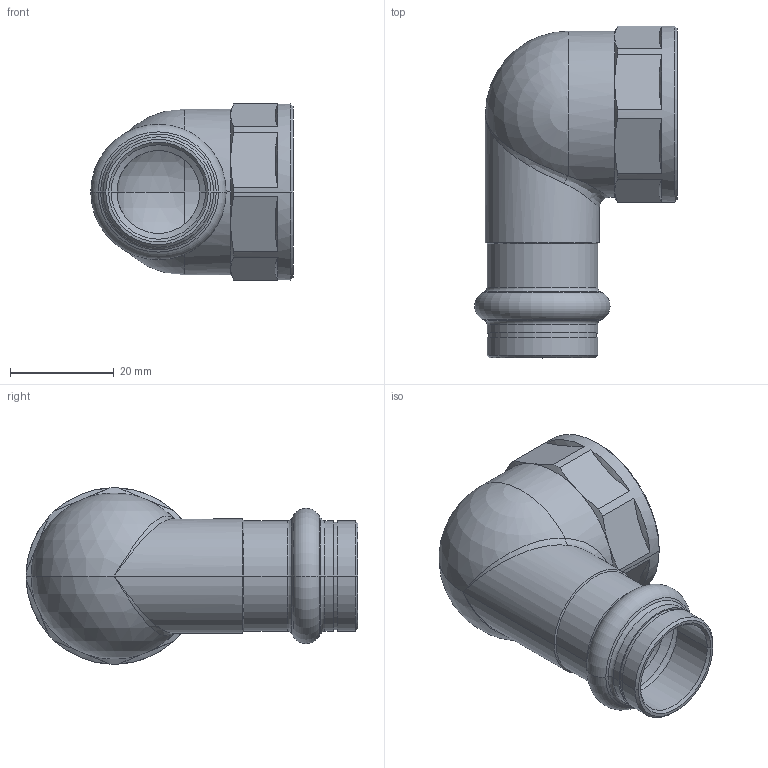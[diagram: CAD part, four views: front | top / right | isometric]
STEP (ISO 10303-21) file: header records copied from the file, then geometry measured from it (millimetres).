
FILE_DESCRIPTION (( 'STEP AP203' ), '1' );
FILE_NAME ('SP4090G Ø18 3-4.STEP', '2017-04-28T08:51:35', ( '' ), ( '' ), 'SwSTEP 2.0', 'SolidWorks 2016', '' );
FILE_SCHEMA (( 'CONFIG_CONTROL_DESIGN' ));
Length unit declared in the file: millimetre
Products named in the file (1): SP4090G Ø18 3-4
Bounding box: 39.05 x 64 x 34 mm (x, y, z)
Volume: 14768.5 mm3; surface area: 11459.1 mm2
Topology: 1 solids, 1 shells, 91 faces, 212 edges, 120 vertices
Faces by surface type: cone 37, cylinder 26, plane 13, torus 8, sphere 4, bspline 3
Entity records: 3201 total; most frequent: CARTESIAN_POINT 1107, DIRECTION 451, ORIENTED_EDGE 408, EDGE_CURVE 204, AXIS2_PLACEMENT_3D 194, VERTEX_POINT 118, CIRCLE 105, EDGE_LOOP 96
